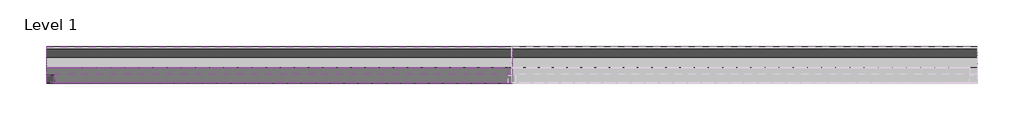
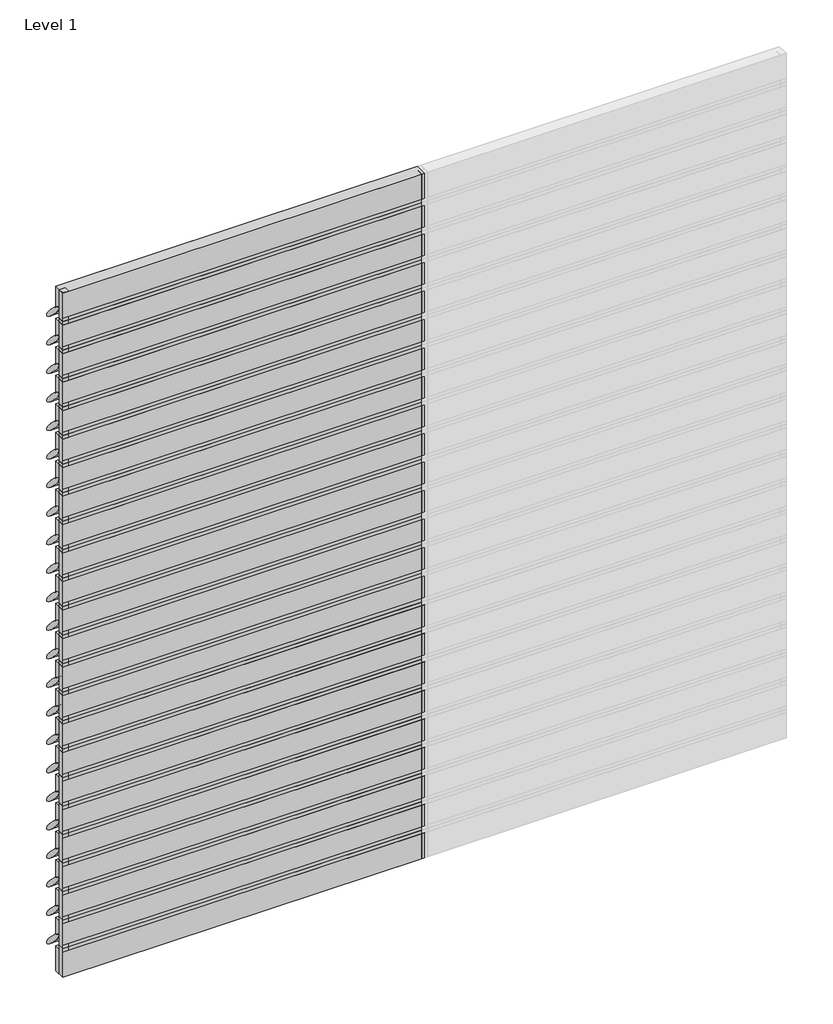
# One storey, part 1 of 2: 59 members, 48 plates.
"""IFC4 building model written with IfcOpenShell, lengths in millimetres."""

from ifc_helpers import new_model, si_unit, origin, place, context, project, spatial, transform, mapped, element, save
from components import rectangular_mullion_dafef153, rectangular_mullion_eeaea343, empty_system_panel_empty_4dce7524, empty_system_panel_empty_164fccf4, empty_system_panel_empty_839ed214

model = new_model("IFC4")

# Units and contexts
model_context = context("Model", 3, world=origin())
ifc_project = project(units=[si_unit("LENGTHUNIT", "METRE", prefix="MILLI")], contexts=[model_context])

# Site, building, storey
site = spatial("IfcSite", under=ifc_project)
building = spatial("IfcBuilding", under=site)
storey = spatial("IfcBuildingStorey", under=building, Name="Level 1", Elevation=0.0)

# Members
placement = place(None, origin())
rectangular_mullion_shape = rectangular_mullion_dafef153(model_context)
element("IfcMember", 1, ObjectType="Rectangular Mullion : RSen_21_CWM_blade - 250 ellips - 45°_gen_duco projects", at=placement, inside=storey, context=model_context, shape_type="MappedRepresentation", body=[
    mapped(rectangular_mullion_shape, transform((3000.0, 3000.0, 250.0), x_axis=(0.0, 0.0, 1.0), y_axis=(0.0, 1.0, 0.0), z_axis=(-1.0, 0.0, 0.0))),
])
element("IfcMember", 2, ObjectType="Rectangular Mullion : RSen_21_CWM_blade - 250 ellips - 45°_gen_duco projects", at=placement, inside=storey, context=model_context, shape_type="MappedRepresentation", body=[
    mapped(rectangular_mullion_shape, transform((3000.0, 3000.0, 500.0), x_axis=(0.0, 0.0, 1.0), y_axis=(0.0, 1.0, 0.0), z_axis=(-1.0, 0.0, 0.0))),
])
element("IfcMember", 3, ObjectType="Rectangular Mullion : RSen_21_CWM_blade - 250 ellips - 45°_gen_duco projects", at=placement, inside=storey, context=model_context, shape_type="MappedRepresentation", body=[
    mapped(rectangular_mullion_shape, transform((3000.0, 3000.0, 750.0), x_axis=(0.0, 0.0, 1.0), y_axis=(0.0, 1.0, 0.0), z_axis=(-1.0, 0.0, 0.0))),
])
element("IfcMember", 4, ObjectType="Rectangular Mullion : RSen_21_CWM_blade - 250 ellips - 45°_gen_duco projects", at=placement, inside=storey, context=model_context, shape_type="MappedRepresentation", body=[
    mapped(rectangular_mullion_shape, transform((3000.0, 3000.0, 1000.0), x_axis=(0.0, 0.0, 1.0), y_axis=(0.0, 1.0, 0.0), z_axis=(-1.0, 0.0, 0.0))),
])
element("IfcMember", 5, ObjectType="Rectangular Mullion : RSen_21_CWM_blade - 250 ellips - 45°_gen_duco projects", at=placement, inside=storey, context=model_context, shape_type="MappedRepresentation", body=[
    mapped(rectangular_mullion_shape, transform((3000.0, 3000.0, 1250.0), x_axis=(0.0, 0.0, 1.0), y_axis=(0.0, 1.0, 0.0), z_axis=(-1.0, 0.0, 0.0))),
])
element("IfcMember", 6, ObjectType="Rectangular Mullion : RSen_21_CWM_blade - 250 ellips - 45°_gen_duco projects", at=placement, inside=storey, context=model_context, shape_type="MappedRepresentation", body=[
    mapped(rectangular_mullion_shape, transform((3000.0, 3000.0, 1500.0), x_axis=(0.0, 0.0, 1.0), y_axis=(0.0, 1.0, 0.0), z_axis=(-1.0, 0.0, 0.0))),
])
element("IfcMember", 7, ObjectType="Rectangular Mullion : RSen_21_CWM_blade - 250 ellips - 45°_gen_duco projects", at=placement, inside=storey, context=model_context, shape_type="MappedRepresentation", body=[
    mapped(rectangular_mullion_shape, transform((3000.0, 3000.0, 1750.0), x_axis=(0.0, 0.0, 1.0), y_axis=(0.0, 1.0, 0.0), z_axis=(-1.0, 0.0, 0.0))),
])
element("IfcMember", 8, ObjectType="Rectangular Mullion : RSen_21_CWM_blade - 250 ellips - 45°_gen_duco projects", at=placement, inside=storey, context=model_context, shape_type="MappedRepresentation", body=[
    mapped(rectangular_mullion_shape, transform((3000.0, 3000.0, 2000.0), x_axis=(0.0, 0.0, 1.0), y_axis=(0.0, 1.0, 0.0), z_axis=(-1.0, 0.0, 0.0))),
])
element("IfcMember", 9, ObjectType="Rectangular Mullion : RSen_21_CWM_blade - 250 ellips - 45°_gen_duco projects", at=placement, inside=storey, context=model_context, shape_type="MappedRepresentation", body=[
    mapped(rectangular_mullion_shape, transform((3000.0, 3000.0, 2250.0), x_axis=(0.0, 0.0, 1.0), y_axis=(0.0, 1.0, 0.0), z_axis=(-1.0, 0.0, 0.0))),
])
element("IfcMember", 10, ObjectType="Rectangular Mullion : RSen_21_CWM_blade - 250 ellips - 45°_gen_duco projects", at=placement, inside=storey, context=model_context, shape_type="MappedRepresentation", body=[
    mapped(rectangular_mullion_shape, transform((3000.0, 3000.0, 2500.0), x_axis=(0.0, 0.0, 1.0), y_axis=(0.0, 1.0, 0.0), z_axis=(-1.0, 0.0, 0.0))),
])
element("IfcMember", 11, ObjectType="Rectangular Mullion : RSen_21_CWM_blade - 250 ellips - 45°_gen_duco projects", at=placement, inside=storey, context=model_context, shape_type="MappedRepresentation", body=[
    mapped(rectangular_mullion_shape, transform((3000.0, 3000.0, 2750.0), x_axis=(0.0, 0.0, 1.0), y_axis=(0.0, 1.0, 0.0), z_axis=(-1.0, 0.0, 0.0))),
])
element("IfcMember", 12, ObjectType="Rectangular Mullion : RSen_21_CWM_blade - 250 ellips - 45°_gen_duco projects", at=placement, inside=storey, context=model_context, shape_type="MappedRepresentation", body=[
    mapped(rectangular_mullion_shape, transform((3000.0, 3000.0, 3000.0), x_axis=(0.0, 0.0, 1.0), y_axis=(0.0, 1.0, 0.0), z_axis=(-1.0, 0.0, 0.0))),
])
element("IfcMember", 13, ObjectType="Rectangular Mullion : RSen_21_CWM_blade - 250 ellips - 45°_gen_duco projects", at=placement, inside=storey, context=model_context, shape_type="MappedRepresentation", body=[
    mapped(rectangular_mullion_shape, transform((0.0, 3000.0, 250.0), x_axis=(0.0, 0.0, 1.0), y_axis=(0.0, 1.0, 0.0), z_axis=(-1.0, 0.0, 0.0))),
])
element("IfcMember", 14, ObjectType="Rectangular Mullion : RSen_21_CWM_blade - 250 ellips - 45°_gen_duco projects", at=placement, inside=storey, context=model_context, shape_type="MappedRepresentation", body=[
    mapped(rectangular_mullion_shape, transform((0.0, 3000.0, 500.0), x_axis=(0.0, 0.0, 1.0), y_axis=(0.0, 1.0, 0.0), z_axis=(-1.0, 0.0, 0.0))),
])
element("IfcMember", 15, ObjectType="Rectangular Mullion : RSen_21_CWM_blade - 250 ellips - 45°_gen_duco projects", at=placement, inside=storey, context=model_context, shape_type="MappedRepresentation", body=[
    mapped(rectangular_mullion_shape, transform((0.0, 3000.0, 750.0), x_axis=(0.0, 0.0, 1.0), y_axis=(0.0, 1.0, 0.0), z_axis=(-1.0, 0.0, 0.0))),
])
element("IfcMember", 16, ObjectType="Rectangular Mullion : RSen_21_CWM_blade - 250 ellips - 45°_gen_duco projects", at=placement, inside=storey, context=model_context, shape_type="MappedRepresentation", body=[
    mapped(rectangular_mullion_shape, transform((0.0, 3000.0, 1000.0), x_axis=(0.0, 0.0, 1.0), y_axis=(0.0, 1.0, 0.0), z_axis=(-1.0, 0.0, 0.0))),
])
element("IfcMember", 17, ObjectType="Rectangular Mullion : RSen_21_CWM_blade - 250 ellips - 45°_gen_duco projects", at=placement, inside=storey, context=model_context, shape_type="MappedRepresentation", body=[
    mapped(rectangular_mullion_shape, transform((0.0, 3000.0, 1250.0), x_axis=(0.0, 0.0, 1.0), y_axis=(0.0, 1.0, 0.0), z_axis=(-1.0, 0.0, 0.0))),
])
element("IfcMember", 18, ObjectType="Rectangular Mullion : RSen_21_CWM_blade - 250 ellips - 45°_gen_duco projects", at=placement, inside=storey, context=model_context, shape_type="MappedRepresentation", body=[
    mapped(rectangular_mullion_shape, transform((0.0, 3000.0, 1500.0), x_axis=(0.0, 0.0, 1.0), y_axis=(0.0, 1.0, 0.0), z_axis=(-1.0, 0.0, 0.0))),
])
element("IfcMember", 19, ObjectType="Rectangular Mullion : RSen_21_CWM_blade - 250 ellips - 45°_gen_duco projects", at=placement, inside=storey, context=model_context, shape_type="MappedRepresentation", body=[
    mapped(rectangular_mullion_shape, transform((0.0, 3000.0, 1750.0), x_axis=(0.0, 0.0, 1.0), y_axis=(0.0, 1.0, 0.0), z_axis=(-1.0, 0.0, 0.0))),
])
element("IfcMember", 20, ObjectType="Rectangular Mullion : RSen_21_CWM_blade - 250 ellips - 45°_gen_duco projects", at=placement, inside=storey, context=model_context, shape_type="MappedRepresentation", body=[
    mapped(rectangular_mullion_shape, transform((0.0, 3000.0, 2000.0), x_axis=(0.0, 0.0, 1.0), y_axis=(0.0, 1.0, 0.0), z_axis=(-1.0, 0.0, 0.0))),
])
element("IfcMember", 21, ObjectType="Rectangular Mullion : RSen_21_CWM_blade - 250 ellips - 45°_gen_duco projects", at=placement, inside=storey, context=model_context, shape_type="MappedRepresentation", body=[
    mapped(rectangular_mullion_shape, transform((0.0, 3000.0, 2250.0), x_axis=(0.0, 0.0, 1.0), y_axis=(0.0, 1.0, 0.0), z_axis=(-1.0, 0.0, 0.0))),
])
element("IfcMember", 22, ObjectType="Rectangular Mullion : RSen_21_CWM_blade - 250 ellips - 45°_gen_duco projects", at=placement, inside=storey, context=model_context, shape_type="MappedRepresentation", body=[
    mapped(rectangular_mullion_shape, transform((0.0, 3000.0, 2500.0), x_axis=(0.0, 0.0, 1.0), y_axis=(0.0, 1.0, 0.0), z_axis=(-1.0, 0.0, 0.0))),
])
element("IfcMember", 23, ObjectType="Rectangular Mullion : RSen_21_CWM_blade - 250 ellips - 45°_gen_duco projects", at=placement, inside=storey, context=model_context, shape_type="MappedRepresentation", body=[
    mapped(rectangular_mullion_shape, transform((0.0, 3000.0, 2750.0), x_axis=(0.0, 0.0, 1.0), y_axis=(0.0, 1.0, 0.0), z_axis=(-1.0, 0.0, 0.0))),
])
element("IfcMember", 24, ObjectType="Rectangular Mullion : RSen_21_CWM_blade - 250 ellips - 45°_gen_duco projects", at=placement, inside=storey, context=model_context, shape_type="MappedRepresentation", body=[
    mapped(rectangular_mullion_shape, transform((0.0, 3000.0, 3000.0), x_axis=(0.0, 0.0, 1.0), y_axis=(0.0, 1.0, 0.0), z_axis=(-1.0, 0.0, 0.0))),
])
element("IfcMember", 25, ObjectType="Rectangular Mullion : RSen_21_CWM_blade - 250 ellips - 45°_gen_duco projects", at=placement, inside=storey, context=model_context, shape_type="MappedRepresentation", body=[
    mapped(rectangular_mullion_shape, transform((0.0, 3000.0, 3250.0), x_axis=(0.0, 0.0, 1.0), y_axis=(0.0, 1.0, 0.0), z_axis=(-1.0, 0.0, 0.0))),
])
element("IfcMember", 26, ObjectType="Rectangular Mullion : RSen_21_CWM_blade - 250 ellips - 45°_gen_duco projects", at=placement, inside=storey, context=model_context, shape_type="MappedRepresentation", body=[
    mapped(rectangular_mullion_shape, transform((0.0, 3000.0, 3500.0), x_axis=(0.0, 0.0, 1.0), y_axis=(0.0, 1.0, 0.0), z_axis=(-1.0, 0.0, 0.0))),
])
element("IfcMember", 27, ObjectType="Rectangular Mullion : RSen_21_CWM_blade - 250 ellips - 45°_gen_duco projects", at=placement, inside=storey, context=model_context, shape_type="MappedRepresentation", body=[
    mapped(rectangular_mullion_shape, transform((0.0, 3000.0, 3750.0), x_axis=(0.0, 0.0, 1.0), y_axis=(0.0, 1.0, 0.0), z_axis=(-1.0, 0.0, 0.0))),
])
element("IfcMember", 28, ObjectType="Rectangular Mullion : RSen_21_CWM_blade - 250 ellips - 45°_gen_duco projects", at=placement, inside=storey, context=model_context, shape_type="MappedRepresentation", body=[
    mapped(rectangular_mullion_shape, transform((0.0, 3000.0, 4000.0), x_axis=(0.0, 0.0, 1.0), y_axis=(0.0, 1.0, 0.0), z_axis=(-1.0, 0.0, 0.0))),
])
element("IfcMember", 29, ObjectType="Rectangular Mullion : RSen_21_CWM_blade - 250 ellips - 45°_gen_duco projects", at=placement, inside=storey, context=model_context, shape_type="MappedRepresentation", body=[
    mapped(rectangular_mullion_shape, transform((0.0, 3000.0, 4250.0), x_axis=(0.0, 0.0, 1.0), y_axis=(0.0, 1.0, 0.0), z_axis=(-1.0, 0.0, 0.0))),
])
element("IfcMember", 30, ObjectType="Rectangular Mullion : RSen_21_CWM_blade - 250 ellips - 45°_gen_duco projects", at=placement, inside=storey, context=model_context, shape_type="MappedRepresentation", body=[
    mapped(rectangular_mullion_shape, transform((0.0, 3000.0, 4500.0), x_axis=(0.0, 0.0, 1.0), y_axis=(0.0, 1.0, 0.0), z_axis=(-1.0, 0.0, 0.0))),
])
element("IfcMember", 31, ObjectType="Rectangular Mullion : RSen_21_CWM_blade - 250 ellips - 45°_gen_duco projects", at=placement, inside=storey, context=model_context, shape_type="MappedRepresentation", body=[
    mapped(rectangular_mullion_shape, transform((0.0, 3000.0, 4750.0), x_axis=(0.0, 0.0, 1.0), y_axis=(0.0, 1.0, 0.0), z_axis=(-1.0, 0.0, 0.0))),
])
element("IfcMember", 32, ObjectType="Rectangular Mullion : RSen_21_CWM_blade - 250 ellips - 45°_gen_duco projects", at=placement, inside=storey, context=model_context, shape_type="MappedRepresentation", body=[
    mapped(rectangular_mullion_shape, transform((0.0, 3000.0, 5000.0), x_axis=(0.0, 0.0, 1.0), y_axis=(0.0, 1.0, 0.0), z_axis=(-1.0, 0.0, 0.0))),
])
element("IfcMember", 33, ObjectType="Rectangular Mullion : RSen_21_CWM_blade - 250 ellips - 45°_gen_duco projects", at=placement, inside=storey, context=model_context, shape_type="MappedRepresentation", body=[
    mapped(rectangular_mullion_shape, transform((0.0, 3000.0, 5250.0), x_axis=(0.0, 0.0, 1.0), y_axis=(0.0, 1.0, 0.0), z_axis=(-1.0, 0.0, 0.0))),
])
element("IfcMember", 34, ObjectType="Rectangular Mullion : RSen_21_CWM_blade - 250 ellips - 45°_gen_duco projects", at=placement, inside=storey, context=model_context, shape_type="MappedRepresentation", body=[
    mapped(rectangular_mullion_shape, transform((0.0, 3000.0, 5500.0), x_axis=(0.0, 0.0, 1.0), y_axis=(0.0, 1.0, 0.0), z_axis=(-1.0, 0.0, 0.0))),
])
element("IfcMember", 35, ObjectType="Rectangular Mullion : RSen_21_CWM_blade - 250 ellips - 45°_gen_duco projects", at=placement, inside=storey, context=model_context, shape_type="MappedRepresentation", body=[
    mapped(rectangular_mullion_shape, transform((0.0, 3000.0, 5750.0), x_axis=(0.0, 0.0, 1.0), y_axis=(0.0, 1.0, 0.0), z_axis=(-1.0, 0.0, 0.0))),
])
rectangular_mullion_2_shape = rectangular_mullion_eeaea343(model_context)
element("IfcMember", 36, ObjectType="Rectangular Mullion : RSen_21_CWM_support profile 50x50 - left_gen_duco projects", at=placement, inside=storey, context=model_context, shape_type="MappedRepresentation", body=[
    mapped(rectangular_mullion_2_shape, transform((0.0, 3000.0, 0.0), x_axis=(-1.0, 0.0, 0.0), y_axis=(0.0, 1.0, 0.0), z_axis=(0.0, 0.0, -1.0))),
])
element("IfcMember", 37, ObjectType="Rectangular Mullion : RSen_21_CWM_support profile 50x50 - left_gen_duco projects", at=placement, inside=storey, context=model_context, shape_type="MappedRepresentation", body=[
    mapped(rectangular_mullion_2_shape, transform((0.0, 3000.0, 250.0), x_axis=(-1.0, 0.0, 0.0), y_axis=(0.0, 1.0, 0.0), z_axis=(0.0, 0.0, -1.0))),
])
element("IfcMember", 38, ObjectType="Rectangular Mullion : RSen_21_CWM_support profile 50x50 - left_gen_duco projects", at=placement, inside=storey, context=model_context, shape_type="MappedRepresentation", body=[
    mapped(rectangular_mullion_2_shape, transform((0.0, 3000.0, 500.0), x_axis=(-1.0, 0.0, 0.0), y_axis=(0.0, 1.0, 0.0), z_axis=(0.0, 0.0, -1.0))),
])
element("IfcMember", 39, ObjectType="Rectangular Mullion : RSen_21_CWM_support profile 50x50 - left_gen_duco projects", at=placement, inside=storey, context=model_context, shape_type="MappedRepresentation", body=[
    mapped(rectangular_mullion_2_shape, transform((0.0, 3000.0, 750.0), x_axis=(-1.0, 0.0, 0.0), y_axis=(0.0, 1.0, 0.0), z_axis=(0.0, 0.0, -1.0))),
])
element("IfcMember", 40, ObjectType="Rectangular Mullion : RSen_21_CWM_support profile 50x50 - left_gen_duco projects", at=placement, inside=storey, context=model_context, shape_type="MappedRepresentation", body=[
    mapped(rectangular_mullion_2_shape, transform((0.0, 3000.0, 1000.0), x_axis=(-1.0, 0.0, 0.0), y_axis=(0.0, 1.0, 0.0), z_axis=(0.0, 0.0, -1.0))),
])
element("IfcMember", 41, ObjectType="Rectangular Mullion : RSen_21_CWM_support profile 50x50 - left_gen_duco projects", at=placement, inside=storey, context=model_context, shape_type="MappedRepresentation", body=[
    mapped(rectangular_mullion_2_shape, transform((0.0, 3000.0, 1250.0), x_axis=(-1.0, 0.0, 0.0), y_axis=(0.0, 1.0, 0.0), z_axis=(0.0, 0.0, -1.0))),
])
element("IfcMember", 42, ObjectType="Rectangular Mullion : RSen_21_CWM_support profile 50x50 - left_gen_duco projects", at=placement, inside=storey, context=model_context, shape_type="MappedRepresentation", body=[
    mapped(rectangular_mullion_2_shape, transform((0.0, 3000.0, 1500.0), x_axis=(-1.0, 0.0, 0.0), y_axis=(0.0, 1.0, 0.0), z_axis=(0.0, 0.0, -1.0))),
])
element("IfcMember", 43, ObjectType="Rectangular Mullion : RSen_21_CWM_support profile 50x50 - left_gen_duco projects", at=placement, inside=storey, context=model_context, shape_type="MappedRepresentation", body=[
    mapped(rectangular_mullion_2_shape, transform((0.0, 3000.0, 1750.0), x_axis=(-1.0, 0.0, 0.0), y_axis=(0.0, 1.0, 0.0), z_axis=(0.0, 0.0, -1.0))),
])
element("IfcMember", 44, ObjectType="Rectangular Mullion : RSen_21_CWM_support profile 50x50 - left_gen_duco projects", at=placement, inside=storey, context=model_context, shape_type="MappedRepresentation", body=[
    mapped(rectangular_mullion_2_shape, transform((0.0, 3000.0, 2000.0), x_axis=(-1.0, 0.0, 0.0), y_axis=(0.0, 1.0, 0.0), z_axis=(0.0, 0.0, -1.0))),
])
element("IfcMember", 45, ObjectType="Rectangular Mullion : RSen_21_CWM_support profile 50x50 - left_gen_duco projects", at=placement, inside=storey, context=model_context, shape_type="MappedRepresentation", body=[
    mapped(rectangular_mullion_2_shape, transform((0.0, 3000.0, 2250.0), x_axis=(-1.0, 0.0, 0.0), y_axis=(0.0, 1.0, 0.0), z_axis=(0.0, 0.0, -1.0))),
])
element("IfcMember", 46, ObjectType="Rectangular Mullion : RSen_21_CWM_support profile 50x50 - left_gen_duco projects", at=placement, inside=storey, context=model_context, shape_type="MappedRepresentation", body=[
    mapped(rectangular_mullion_2_shape, transform((0.0, 3000.0, 2500.0), x_axis=(-1.0, 0.0, 0.0), y_axis=(0.0, 1.0, 0.0), z_axis=(0.0, 0.0, -1.0))),
])
element("IfcMember", 47, ObjectType="Rectangular Mullion : RSen_21_CWM_support profile 50x50 - left_gen_duco projects", at=placement, inside=storey, context=model_context, shape_type="MappedRepresentation", body=[
    mapped(rectangular_mullion_2_shape, transform((0.0, 3000.0, 2750.0), x_axis=(-1.0, 0.0, 0.0), y_axis=(0.0, 1.0, 0.0), z_axis=(0.0, 0.0, -1.0))),
])
element("IfcMember", 48, ObjectType="Rectangular Mullion : RSen_21_CWM_support profile 50x50 - left_gen_duco projects", at=placement, inside=storey, context=model_context, shape_type="MappedRepresentation", body=[
    mapped(rectangular_mullion_2_shape, transform((0.0, 3000.0, 3000.0), x_axis=(-1.0, 0.0, 0.0), y_axis=(0.0, 1.0, 0.0), z_axis=(0.0, 0.0, -1.0))),
])
element("IfcMember", 49, ObjectType="Rectangular Mullion : RSen_21_CWM_support profile 50x50 - left_gen_duco projects", at=placement, inside=storey, context=model_context, shape_type="MappedRepresentation", body=[
    mapped(rectangular_mullion_2_shape, transform((0.0, 3000.0, 3250.0), x_axis=(-1.0, 0.0, 0.0), y_axis=(0.0, 1.0, 0.0), z_axis=(0.0, 0.0, -1.0))),
])
element("IfcMember", 50, ObjectType="Rectangular Mullion : RSen_21_CWM_support profile 50x50 - left_gen_duco projects", at=placement, inside=storey, context=model_context, shape_type="MappedRepresentation", body=[
    mapped(rectangular_mullion_2_shape, transform((0.0, 3000.0, 3500.0), x_axis=(-1.0, 0.0, 0.0), y_axis=(0.0, 1.0, 0.0), z_axis=(0.0, 0.0, -1.0))),
])
element("IfcMember", 51, ObjectType="Rectangular Mullion : RSen_21_CWM_support profile 50x50 - left_gen_duco projects", at=placement, inside=storey, context=model_context, shape_type="MappedRepresentation", body=[
    mapped(rectangular_mullion_2_shape, transform((0.0, 3000.0, 3750.0), x_axis=(-1.0, 0.0, 0.0), y_axis=(0.0, 1.0, 0.0), z_axis=(0.0, 0.0, -1.0))),
])
element("IfcMember", 52, ObjectType="Rectangular Mullion : RSen_21_CWM_support profile 50x50 - left_gen_duco projects", at=placement, inside=storey, context=model_context, shape_type="MappedRepresentation", body=[
    mapped(rectangular_mullion_2_shape, transform((0.0, 3000.0, 4000.0), x_axis=(-1.0, 0.0, 0.0), y_axis=(0.0, 1.0, 0.0), z_axis=(0.0, 0.0, -1.0))),
])
element("IfcMember", 53, ObjectType="Rectangular Mullion : RSen_21_CWM_support profile 50x50 - left_gen_duco projects", at=placement, inside=storey, context=model_context, shape_type="MappedRepresentation", body=[
    mapped(rectangular_mullion_2_shape, transform((0.0, 3000.0, 4250.0), x_axis=(-1.0, 0.0, 0.0), y_axis=(0.0, 1.0, 0.0), z_axis=(0.0, 0.0, -1.0))),
])
element("IfcMember", 54, ObjectType="Rectangular Mullion : RSen_21_CWM_support profile 50x50 - left_gen_duco projects", at=placement, inside=storey, context=model_context, shape_type="MappedRepresentation", body=[
    mapped(rectangular_mullion_2_shape, transform((0.0, 3000.0, 4500.0), x_axis=(-1.0, 0.0, 0.0), y_axis=(0.0, 1.0, 0.0), z_axis=(0.0, 0.0, -1.0))),
])
element("IfcMember", 55, ObjectType="Rectangular Mullion : RSen_21_CWM_support profile 50x50 - left_gen_duco projects", at=placement, inside=storey, context=model_context, shape_type="MappedRepresentation", body=[
    mapped(rectangular_mullion_2_shape, transform((0.0, 3000.0, 4750.0), x_axis=(-1.0, 0.0, 0.0), y_axis=(0.0, 1.0, 0.0), z_axis=(0.0, 0.0, -1.0))),
])
element("IfcMember", 56, ObjectType="Rectangular Mullion : RSen_21_CWM_support profile 50x50 - left_gen_duco projects", at=placement, inside=storey, context=model_context, shape_type="MappedRepresentation", body=[
    mapped(rectangular_mullion_2_shape, transform((0.0, 3000.0, 5000.0), x_axis=(-1.0, 0.0, 0.0), y_axis=(0.0, 1.0, 0.0), z_axis=(0.0, 0.0, -1.0))),
])
element("IfcMember", 57, ObjectType="Rectangular Mullion : RSen_21_CWM_support profile 50x50 - left_gen_duco projects", at=placement, inside=storey, context=model_context, shape_type="MappedRepresentation", body=[
    mapped(rectangular_mullion_2_shape, transform((0.0, 3000.0, 5250.0), x_axis=(-1.0, 0.0, 0.0), y_axis=(0.0, 1.0, 0.0), z_axis=(0.0, 0.0, -1.0))),
])
element("IfcMember", 58, ObjectType="Rectangular Mullion : RSen_21_CWM_support profile 50x50 - left_gen_duco projects", at=placement, inside=storey, context=model_context, shape_type="MappedRepresentation", body=[
    mapped(rectangular_mullion_2_shape, transform((0.0, 3000.0, 5500.0), x_axis=(-1.0, 0.0, 0.0), y_axis=(0.0, 1.0, 0.0), z_axis=(0.0, 0.0, -1.0))),
])
element("IfcMember", 59, ObjectType="Rectangular Mullion : RSen_21_CWM_support profile 50x50 - left_gen_duco projects", at=placement, inside=storey, context=model_context, shape_type="MappedRepresentation", body=[
    mapped(rectangular_mullion_2_shape, transform((0.0, 3000.0, 5750.0), x_axis=(-1.0, 0.0, 0.0), y_axis=(0.0, 1.0, 0.0), z_axis=(0.0, 0.0, -1.0))),
])

# Plates
empty_system_panel_empty_shape = empty_system_panel_empty_4dce7524(model_context)
element("IfcPlate", 60, ObjectType="Empty System Panel : Empty", at=placement, inside=storey, context=model_context, shape_type="MappedRepresentation", body=[
    mapped(empty_system_panel_empty_shape, transform((1500.0, 3000.0, 0.0), x_axis=(-1.0, 0.0, 0.0), y_axis=(0.0, -1.0, 0.0), z_axis=(0.0, 0.0, 1.0))),
])
element("IfcPlate", 61, ObjectType="Empty System Panel : Empty", at=placement, inside=storey, context=model_context, shape_type="MappedRepresentation", body=[
    mapped(empty_system_panel_empty_shape, transform((1500.0, 3000.0, 5780.759145), x_axis=(-1.0, 0.0, 0.0), y_axis=(0.0, -1.0, 0.0), z_axis=(0.0, 0.0, 1.0))),
])
empty_system_panel_empty_2_shape = empty_system_panel_empty_164fccf4(model_context)
element("IfcPlate", 62, ObjectType="Empty System Panel : Empty", at=placement, inside=storey, context=model_context, shape_type="MappedRepresentation", body=[
    mapped(empty_system_panel_empty_2_shape, transform((1500.0, 3000.0, 280.759145), x_axis=(-1.0, 0.0, 0.0), y_axis=(0.0, -1.0, 0.0), z_axis=(0.0, 0.0, 1.0))),
])
element("IfcPlate", 63, ObjectType="Empty System Panel : Empty", at=placement, inside=storey, context=model_context, shape_type="MappedRepresentation", body=[
    mapped(empty_system_panel_empty_2_shape, transform((1500.0, 3000.0, 530.759145), x_axis=(-1.0, 0.0, 0.0), y_axis=(0.0, -1.0, 0.0), z_axis=(0.0, 0.0, 1.0))),
])
element("IfcPlate", 64, ObjectType="Empty System Panel : Empty", at=placement, inside=storey, context=model_context, shape_type="MappedRepresentation", body=[
    mapped(empty_system_panel_empty_2_shape, transform((1500.0, 3000.0, 780.759145), x_axis=(-1.0, 0.0, 0.0), y_axis=(0.0, -1.0, 0.0), z_axis=(0.0, 0.0, 1.0))),
])
element("IfcPlate", 65, ObjectType="Empty System Panel : Empty", at=placement, inside=storey, context=model_context, shape_type="MappedRepresentation", body=[
    mapped(empty_system_panel_empty_2_shape, transform((1500.0, 3000.0, 1030.759145), x_axis=(-1.0, 0.0, 0.0), y_axis=(0.0, -1.0, 0.0), z_axis=(0.0, 0.0, 1.0))),
])
element("IfcPlate", 66, ObjectType="Empty System Panel : Empty", at=placement, inside=storey, context=model_context, shape_type="MappedRepresentation", body=[
    mapped(empty_system_panel_empty_2_shape, transform((1500.0, 3000.0, 1280.759145), x_axis=(-1.0, 0.0, 0.0), y_axis=(0.0, -1.0, 0.0), z_axis=(0.0, 0.0, 1.0))),
])
element("IfcPlate", 67, ObjectType="Empty System Panel : Empty", at=placement, inside=storey, context=model_context, shape_type="MappedRepresentation", body=[
    mapped(empty_system_panel_empty_2_shape, transform((1500.0, 3000.0, 1530.759145), x_axis=(-1.0, 0.0, 0.0), y_axis=(0.0, -1.0, 0.0), z_axis=(0.0, 0.0, 1.0))),
])
element("IfcPlate", 68, ObjectType="Empty System Panel : Empty", at=placement, inside=storey, context=model_context, shape_type="MappedRepresentation", body=[
    mapped(empty_system_panel_empty_2_shape, transform((1500.0, 3000.0, 1780.759145), x_axis=(-1.0, 0.0, 0.0), y_axis=(0.0, -1.0, 0.0), z_axis=(0.0, 0.0, 1.0))),
])
element("IfcPlate", 69, ObjectType="Empty System Panel : Empty", at=placement, inside=storey, context=model_context, shape_type="MappedRepresentation", body=[
    mapped(empty_system_panel_empty_2_shape, transform((1500.0, 3000.0, 2030.759145), x_axis=(-1.0, 0.0, 0.0), y_axis=(0.0, -1.0, 0.0), z_axis=(0.0, 0.0, 1.0))),
])
element("IfcPlate", 70, ObjectType="Empty System Panel : Empty", at=placement, inside=storey, context=model_context, shape_type="MappedRepresentation", body=[
    mapped(empty_system_panel_empty_2_shape, transform((1500.0, 3000.0, 2280.759145), x_axis=(-1.0, 0.0, 0.0), y_axis=(0.0, -1.0, 0.0), z_axis=(0.0, 0.0, 1.0))),
])
element("IfcPlate", 71, ObjectType="Empty System Panel : Empty", at=placement, inside=storey, context=model_context, shape_type="MappedRepresentation", body=[
    mapped(empty_system_panel_empty_2_shape, transform((1500.0, 3000.0, 2530.759145), x_axis=(-1.0, 0.0, 0.0), y_axis=(0.0, -1.0, 0.0), z_axis=(0.0, 0.0, 1.0))),
])
element("IfcPlate", 72, ObjectType="Empty System Panel : Empty", at=placement, inside=storey, context=model_context, shape_type="MappedRepresentation", body=[
    mapped(empty_system_panel_empty_2_shape, transform((1500.0, 3000.0, 2780.759145), x_axis=(-1.0, 0.0, 0.0), y_axis=(0.0, -1.0, 0.0), z_axis=(0.0, 0.0, 1.0))),
])
element("IfcPlate", 73, ObjectType="Empty System Panel : Empty", at=placement, inside=storey, context=model_context, shape_type="MappedRepresentation", body=[
    mapped(empty_system_panel_empty_2_shape, transform((1500.0, 3000.0, 3030.759145), x_axis=(-1.0, 0.0, 0.0), y_axis=(0.0, -1.0, 0.0), z_axis=(0.0, 0.0, 1.0))),
])
element("IfcPlate", 74, ObjectType="Empty System Panel : Empty", at=placement, inside=storey, context=model_context, shape_type="MappedRepresentation", body=[
    mapped(empty_system_panel_empty_2_shape, transform((1500.0, 3000.0, 3280.759145), x_axis=(-1.0, 0.0, 0.0), y_axis=(0.0, -1.0, 0.0), z_axis=(0.0, 0.0, 1.0))),
])
element("IfcPlate", 75, ObjectType="Empty System Panel : Empty", at=placement, inside=storey, context=model_context, shape_type="MappedRepresentation", body=[
    mapped(empty_system_panel_empty_2_shape, transform((1500.0, 3000.0, 3530.759145), x_axis=(-1.0, 0.0, 0.0), y_axis=(0.0, -1.0, 0.0), z_axis=(0.0, 0.0, 1.0))),
])
element("IfcPlate", 76, ObjectType="Empty System Panel : Empty", at=placement, inside=storey, context=model_context, shape_type="MappedRepresentation", body=[
    mapped(empty_system_panel_empty_2_shape, transform((1500.0, 3000.0, 3780.759145), x_axis=(-1.0, 0.0, 0.0), y_axis=(0.0, -1.0, 0.0), z_axis=(0.0, 0.0, 1.0))),
])
element("IfcPlate", 77, ObjectType="Empty System Panel : Empty", at=placement, inside=storey, context=model_context, shape_type="MappedRepresentation", body=[
    mapped(empty_system_panel_empty_2_shape, transform((1500.0, 3000.0, 4030.759145), x_axis=(-1.0, 0.0, 0.0), y_axis=(0.0, -1.0, 0.0), z_axis=(0.0, 0.0, 1.0))),
])
element("IfcPlate", 78, ObjectType="Empty System Panel : Empty", at=placement, inside=storey, context=model_context, shape_type="MappedRepresentation", body=[
    mapped(empty_system_panel_empty_2_shape, transform((1500.0, 3000.0, 4280.759145), x_axis=(-1.0, 0.0, 0.0), y_axis=(0.0, -1.0, 0.0), z_axis=(0.0, 0.0, 1.0))),
])
element("IfcPlate", 79, ObjectType="Empty System Panel : Empty", at=placement, inside=storey, context=model_context, shape_type="MappedRepresentation", body=[
    mapped(empty_system_panel_empty_2_shape, transform((1500.0, 3000.0, 4530.759145), x_axis=(-1.0, 0.0, 0.0), y_axis=(0.0, -1.0, 0.0), z_axis=(0.0, 0.0, 1.0))),
])
element("IfcPlate", 80, ObjectType="Empty System Panel : Empty", at=placement, inside=storey, context=model_context, shape_type="MappedRepresentation", body=[
    mapped(empty_system_panel_empty_2_shape, transform((1500.0, 3000.0, 4780.759145), x_axis=(-1.0, 0.0, 0.0), y_axis=(0.0, -1.0, 0.0), z_axis=(0.0, 0.0, 1.0))),
])
element("IfcPlate", 81, ObjectType="Empty System Panel : Empty", at=placement, inside=storey, context=model_context, shape_type="MappedRepresentation", body=[
    mapped(empty_system_panel_empty_2_shape, transform((1500.0, 3000.0, 5030.759145), x_axis=(-1.0, 0.0, 0.0), y_axis=(0.0, -1.0, 0.0), z_axis=(0.0, 0.0, 1.0))),
])
element("IfcPlate", 82, ObjectType="Empty System Panel : Empty", at=placement, inside=storey, context=model_context, shape_type="MappedRepresentation", body=[
    mapped(empty_system_panel_empty_2_shape, transform((1500.0, 3000.0, 5280.759145), x_axis=(-1.0, 0.0, 0.0), y_axis=(0.0, -1.0, 0.0), z_axis=(0.0, 0.0, 1.0))),
])
element("IfcPlate", 83, ObjectType="Empty System Panel : Empty", at=placement, inside=storey, context=model_context, shape_type="MappedRepresentation", body=[
    mapped(empty_system_panel_empty_2_shape, transform((1500.0, 3000.0, 5530.759145), x_axis=(-1.0, 0.0, 0.0), y_axis=(0.0, -1.0, 0.0), z_axis=(0.0, 0.0, 1.0))),
])
empty_system_panel_empty_3_shape = empty_system_panel_empty_839ed214(model_context)
element("IfcPlate", 84, ObjectType="Empty System Panel : Empty", at=placement, inside=storey, context=model_context, shape_type="MappedRepresentation", body=[
    mapped(empty_system_panel_empty_3_shape, transform((1512.5, 3000.0, 0.0), x_axis=(-1.0, 0.0, 0.0), y_axis=(0.0, -1.0, 0.0), z_axis=(0.0, 0.0, 1.0))),
])
element("IfcPlate", 85, ObjectType="Empty System Panel : Empty", at=placement, inside=storey, context=model_context, shape_type="MappedRepresentation", body=[
    mapped(empty_system_panel_empty_3_shape, transform((1512.5, 3000.0, 250.0), x_axis=(-1.0, 0.0, 0.0), y_axis=(0.0, -1.0, 0.0), z_axis=(0.0, 0.0, 1.0))),
])
element("IfcPlate", 86, ObjectType="Empty System Panel : Empty", at=placement, inside=storey, context=model_context, shape_type="MappedRepresentation", body=[
    mapped(empty_system_panel_empty_3_shape, transform((1512.5, 3000.0, 500.0), x_axis=(-1.0, 0.0, 0.0), y_axis=(0.0, -1.0, 0.0), z_axis=(0.0, 0.0, 1.0))),
])
element("IfcPlate", 87, ObjectType="Empty System Panel : Empty", at=placement, inside=storey, context=model_context, shape_type="MappedRepresentation", body=[
    mapped(empty_system_panel_empty_3_shape, transform((1512.5, 3000.0, 750.0), x_axis=(-1.0, 0.0, 0.0), y_axis=(0.0, -1.0, 0.0), z_axis=(0.0, 0.0, 1.0))),
])
element("IfcPlate", 88, ObjectType="Empty System Panel : Empty", at=placement, inside=storey, context=model_context, shape_type="MappedRepresentation", body=[
    mapped(empty_system_panel_empty_3_shape, transform((1512.5, 3000.0, 1000.0), x_axis=(-1.0, 0.0, 0.0), y_axis=(0.0, -1.0, 0.0), z_axis=(0.0, 0.0, 1.0))),
])
element("IfcPlate", 89, ObjectType="Empty System Panel : Empty", at=placement, inside=storey, context=model_context, shape_type="MappedRepresentation", body=[
    mapped(empty_system_panel_empty_3_shape, transform((1512.5, 3000.0, 1250.0), x_axis=(-1.0, 0.0, 0.0), y_axis=(0.0, -1.0, 0.0), z_axis=(0.0, 0.0, 1.0))),
])
element("IfcPlate", 90, ObjectType="Empty System Panel : Empty", at=placement, inside=storey, context=model_context, shape_type="MappedRepresentation", body=[
    mapped(empty_system_panel_empty_3_shape, transform((1512.5, 3000.0, 1500.0), x_axis=(-1.0, 0.0, 0.0), y_axis=(0.0, -1.0, 0.0), z_axis=(0.0, 0.0, 1.0))),
])
element("IfcPlate", 91, ObjectType="Empty System Panel : Empty", at=placement, inside=storey, context=model_context, shape_type="MappedRepresentation", body=[
    mapped(empty_system_panel_empty_3_shape, transform((1512.5, 3000.0, 1750.0), x_axis=(-1.0, 0.0, 0.0), y_axis=(0.0, -1.0, 0.0), z_axis=(0.0, 0.0, 1.0))),
])
element("IfcPlate", 92, ObjectType="Empty System Panel : Empty", at=placement, inside=storey, context=model_context, shape_type="MappedRepresentation", body=[
    mapped(empty_system_panel_empty_3_shape, transform((1512.5, 3000.0, 2000.0), x_axis=(-1.0, 0.0, 0.0), y_axis=(0.0, -1.0, 0.0), z_axis=(0.0, 0.0, 1.0))),
])
element("IfcPlate", 93, ObjectType="Empty System Panel : Empty", at=placement, inside=storey, context=model_context, shape_type="MappedRepresentation", body=[
    mapped(empty_system_panel_empty_3_shape, transform((1512.5, 3000.0, 2250.0), x_axis=(-1.0, 0.0, 0.0), y_axis=(0.0, -1.0, 0.0), z_axis=(0.0, 0.0, 1.0))),
])
element("IfcPlate", 94, ObjectType="Empty System Panel : Empty", at=placement, inside=storey, context=model_context, shape_type="MappedRepresentation", body=[
    mapped(empty_system_panel_empty_3_shape, transform((1512.5, 3000.0, 2500.0), x_axis=(-1.0, 0.0, 0.0), y_axis=(0.0, -1.0, 0.0), z_axis=(0.0, 0.0, 1.0))),
])
element("IfcPlate", 95, ObjectType="Empty System Panel : Empty", at=placement, inside=storey, context=model_context, shape_type="MappedRepresentation", body=[
    mapped(empty_system_panel_empty_3_shape, transform((1512.5, 3000.0, 2750.0), x_axis=(-1.0, 0.0, 0.0), y_axis=(0.0, -1.0, 0.0), z_axis=(0.0, 0.0, 1.0))),
])
element("IfcPlate", 96, ObjectType="Empty System Panel : Empty", at=placement, inside=storey, context=model_context, shape_type="MappedRepresentation", body=[
    mapped(empty_system_panel_empty_3_shape, transform((1512.5, 3000.0, 3000.0), x_axis=(-1.0, 0.0, 0.0), y_axis=(0.0, -1.0, 0.0), z_axis=(0.0, 0.0, 1.0))),
])
element("IfcPlate", 97, ObjectType="Empty System Panel : Empty", at=placement, inside=storey, context=model_context, shape_type="MappedRepresentation", body=[
    mapped(empty_system_panel_empty_3_shape, transform((1512.5, 3000.0, 3250.0), x_axis=(-1.0, 0.0, 0.0), y_axis=(0.0, -1.0, 0.0), z_axis=(0.0, 0.0, 1.0))),
])
element("IfcPlate", 98, ObjectType="Empty System Panel : Empty", at=placement, inside=storey, context=model_context, shape_type="MappedRepresentation", body=[
    mapped(empty_system_panel_empty_3_shape, transform((1512.5, 3000.0, 3500.0), x_axis=(-1.0, 0.0, 0.0), y_axis=(0.0, -1.0, 0.0), z_axis=(0.0, 0.0, 1.0))),
])
element("IfcPlate", 99, ObjectType="Empty System Panel : Empty", at=placement, inside=storey, context=model_context, shape_type="MappedRepresentation", body=[
    mapped(empty_system_panel_empty_3_shape, transform((1512.5, 3000.0, 3750.0), x_axis=(-1.0, 0.0, 0.0), y_axis=(0.0, -1.0, 0.0), z_axis=(0.0, 0.0, 1.0))),
])
element("IfcPlate", 100, ObjectType="Empty System Panel : Empty", at=placement, inside=storey, context=model_context, shape_type="MappedRepresentation", body=[
    mapped(empty_system_panel_empty_3_shape, transform((1512.5, 3000.0, 4000.0), x_axis=(-1.0, 0.0, 0.0), y_axis=(0.0, -1.0, 0.0), z_axis=(0.0, 0.0, 1.0))),
])
element("IfcPlate", 101, ObjectType="Empty System Panel : Empty", at=placement, inside=storey, context=model_context, shape_type="MappedRepresentation", body=[
    mapped(empty_system_panel_empty_3_shape, transform((1512.5, 3000.0, 4250.0), x_axis=(-1.0, 0.0, 0.0), y_axis=(0.0, -1.0, 0.0), z_axis=(0.0, 0.0, 1.0))),
])
element("IfcPlate", 102, ObjectType="Empty System Panel : Empty", at=placement, inside=storey, context=model_context, shape_type="MappedRepresentation", body=[
    mapped(empty_system_panel_empty_3_shape, transform((1512.5, 3000.0, 4500.0), x_axis=(-1.0, 0.0, 0.0), y_axis=(0.0, -1.0, 0.0), z_axis=(0.0, 0.0, 1.0))),
])
element("IfcPlate", 103, ObjectType="Empty System Panel : Empty", at=placement, inside=storey, context=model_context, shape_type="MappedRepresentation", body=[
    mapped(empty_system_panel_empty_3_shape, transform((1512.5, 3000.0, 4750.0), x_axis=(-1.0, 0.0, 0.0), y_axis=(0.0, -1.0, 0.0), z_axis=(0.0, 0.0, 1.0))),
])
element("IfcPlate", 104, ObjectType="Empty System Panel : Empty", at=placement, inside=storey, context=model_context, shape_type="MappedRepresentation", body=[
    mapped(empty_system_panel_empty_3_shape, transform((1512.5, 3000.0, 5000.0), x_axis=(-1.0, 0.0, 0.0), y_axis=(0.0, -1.0, 0.0), z_axis=(0.0, 0.0, 1.0))),
])
element("IfcPlate", 105, ObjectType="Empty System Panel : Empty", at=placement, inside=storey, context=model_context, shape_type="MappedRepresentation", body=[
    mapped(empty_system_panel_empty_3_shape, transform((1512.5, 3000.0, 5250.0), x_axis=(-1.0, 0.0, 0.0), y_axis=(0.0, -1.0, 0.0), z_axis=(0.0, 0.0, 1.0))),
])
element("IfcPlate", 106, ObjectType="Empty System Panel : Empty", at=placement, inside=storey, context=model_context, shape_type="MappedRepresentation", body=[
    mapped(empty_system_panel_empty_3_shape, transform((1512.5, 3000.0, 5500.0), x_axis=(-1.0, 0.0, 0.0), y_axis=(0.0, -1.0, 0.0), z_axis=(0.0, 0.0, 1.0))),
])
element("IfcPlate", 107, ObjectType="Empty System Panel : Empty", at=placement, inside=storey, context=model_context, shape_type="MappedRepresentation", body=[
    mapped(empty_system_panel_empty_3_shape, transform((1512.5, 3000.0, 5750.0), x_axis=(-1.0, 0.0, 0.0), y_axis=(0.0, -1.0, 0.0), z_axis=(0.0, 0.0, 1.0))),
])

save(model, "model.ifc")
